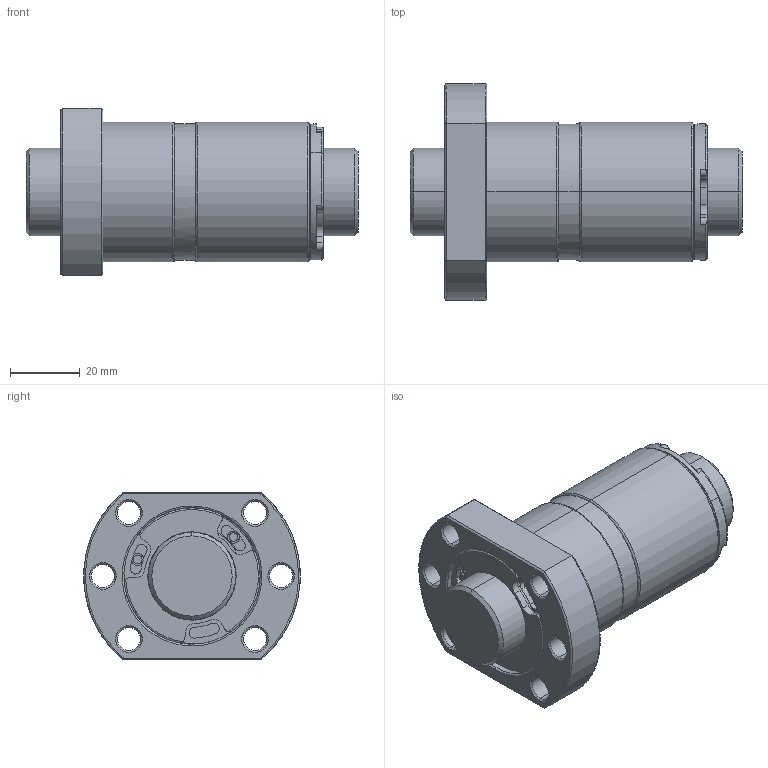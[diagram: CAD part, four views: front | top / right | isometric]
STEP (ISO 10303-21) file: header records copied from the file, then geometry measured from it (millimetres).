
FILE_DESCRIPTION (( 'STEP AP203' ), '1' );
FILE_NAME ('DFSR02505C1D-C.STEP', '2020-06-17T02:24:02', ( '' ), ( '' ), 'SwSTEP 2.0', 'SolidWorks 2013', '' );
FILE_SCHEMA (( 'CONFIG_CONTROL_DESIGN' ));
Length unit declared in the file: millimetre
Products named in the file (1): DFSR02505C1D-C
Bounding box: 95 x 61.87 x 48 mm (x, y, z)
Volume: 110939.4 mm3; surface area: 31544 mm2
Topology: 2 solids, 2 shells, 273 faces, 666 edges, 418 vertices
Faces by surface type: cylinder 141, plane 77, cone 33, bspline 22
Entity records: 10855 total; most frequent: CARTESIAN_POINT 4188, DIRECTION 1504, ORIENTED_EDGE 1332, EDGE_CURVE 666, AXIS2_PLACEMENT_3D 640, VERTEX_POINT 418, CIRCLE 388, EDGE_LOOP 312
